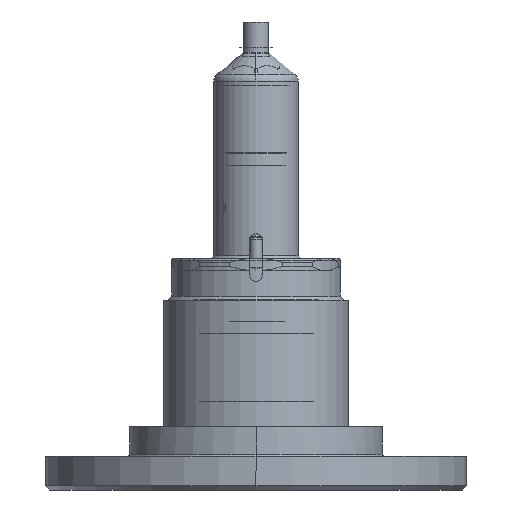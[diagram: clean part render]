
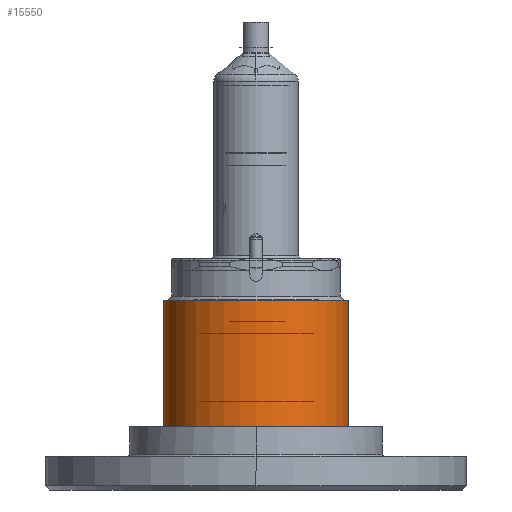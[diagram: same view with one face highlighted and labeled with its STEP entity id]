
A CAD part, front view. The second image highlights one B-rep face of the part: STEP entity #15550.
In plain terms, the highlighted cylindrical face has radius 22 mm (diameter 44 mm), a partial arc.
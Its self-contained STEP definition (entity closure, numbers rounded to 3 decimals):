
#1546 = EDGE_CURVE ( 'NONE', #2487, #8926, #13869, .T. ) ;
#1654 = EDGE_CURVE ( 'NONE', #11255, #2487, #11102, .T. ) ;
#2004 = DIRECTION ( 'NONE',  ( 0., 0., 1. ) ) ;
#2487 = VERTEX_POINT ( 'NONE', #17182 ) ;
#4521 = DIRECTION ( 'NONE',  ( 0., 0., 1. ) ) ;
#4558 = VECTOR ( 'NONE', #6838, 1000. ) ;
#5227 = CARTESIAN_POINT ( 'NONE',  ( -22., 0., 47.584 ) ) ;
#6838 = DIRECTION ( 'NONE',  ( 0., 0., 1. ) ) ;
#6880 = ORIENTED_EDGE ( 'NONE', *, *, #16042, .T. ) ;
#7144 = AXIS2_PLACEMENT_3D ( 'NONE', #13712, #7948, #18249 ) ;
#7710 = ORIENTED_EDGE ( 'NONE', *, *, #1546, .F. ) ;
#7948 = DIRECTION ( 'NONE',  ( 0., 0., 1. ) ) ;
#8256 = CARTESIAN_POINT ( 'NONE',  ( 22., 0., 0. ) ) ;
#8926 = VERTEX_POINT ( 'NONE', #15180 ) ;
#9592 = ORIENTED_EDGE ( 'NONE', *, *, #1654, .F. ) ;
#9869 = VERTEX_POINT ( 'NONE', #8256 ) ;
#10271 = CARTESIAN_POINT ( 'NONE',  ( 0., 0., 0. ) ) ;
#10277 = VECTOR ( 'NONE', #2004, 1000. ) ;
#10731 = CARTESIAN_POINT ( 'NONE',  ( 0., 0., 30. ) ) ;
#11102 = LINE ( 'NONE', #5227, #4558 ) ;
#11200 = CYLINDRICAL_SURFACE ( 'NONE', #7144, 22. ) ;
#11255 = VERTEX_POINT ( 'NONE', #12728 ) ;
#11414 = FACE_OUTER_BOUND ( 'NONE', #11670, .T. ) ;
#11670 = EDGE_LOOP ( 'NONE', ( #9592, #6880, #13607, #7710 ) ) ;
#12171 = AXIS2_PLACEMENT_3D ( 'NONE', #10731, #16744, #12196 ) ;
#12196 = DIRECTION ( 'NONE',  ( 1., 0., 0. ) ) ;
#12728 = CARTESIAN_POINT ( 'NONE',  ( -22., 0., 0. ) ) ;
#13607 = ORIENTED_EDGE ( 'NONE', *, *, #14728, .T. ) ;
#13711 = CIRCLE ( 'NONE', #18336, 22. ) ;
#13712 = CARTESIAN_POINT ( 'NONE',  ( 0., 0., 47.584 ) ) ;
#13869 = CIRCLE ( 'NONE', #12171, 22. ) ;
#14728 = EDGE_CURVE ( 'NONE', #9869, #8926, #16534, .T. ) ;
#14847 = DIRECTION ( 'NONE',  ( 1., 0., 0. ) ) ;
#15180 = CARTESIAN_POINT ( 'NONE',  ( 22., 0., 30. ) ) ;
#15550 = ADVANCED_FACE ( 'NONE', ( #11414 ), #11200, .T. ) ;
#15966 = CARTESIAN_POINT ( 'NONE',  ( 22., 0., 47.584 ) ) ;
#16042 = EDGE_CURVE ( 'NONE', #11255, #9869, #13711, .T. ) ;
#16534 = LINE ( 'NONE', #15966, #10277 ) ;
#16744 = DIRECTION ( 'NONE',  ( 0., 0., 1. ) ) ;
#17182 = CARTESIAN_POINT ( 'NONE',  ( -22., 0., 30. ) ) ;
#18249 = DIRECTION ( 'NONE',  ( 1., 0., 0. ) ) ;
#18336 = AXIS2_PLACEMENT_3D ( 'NONE', #10271, #4521, #14847 ) ;
